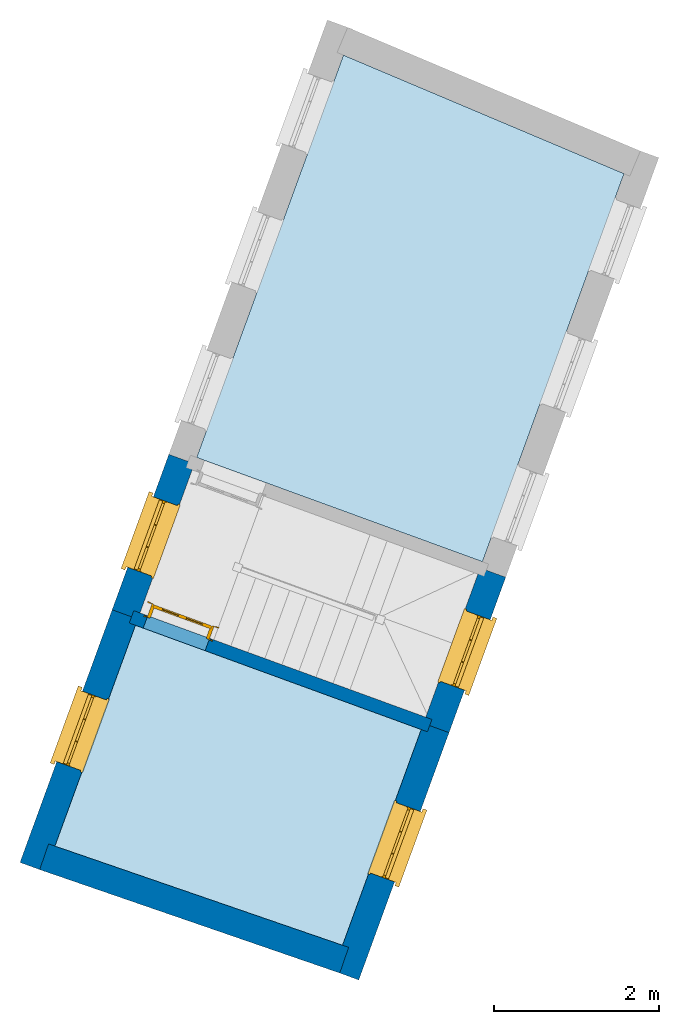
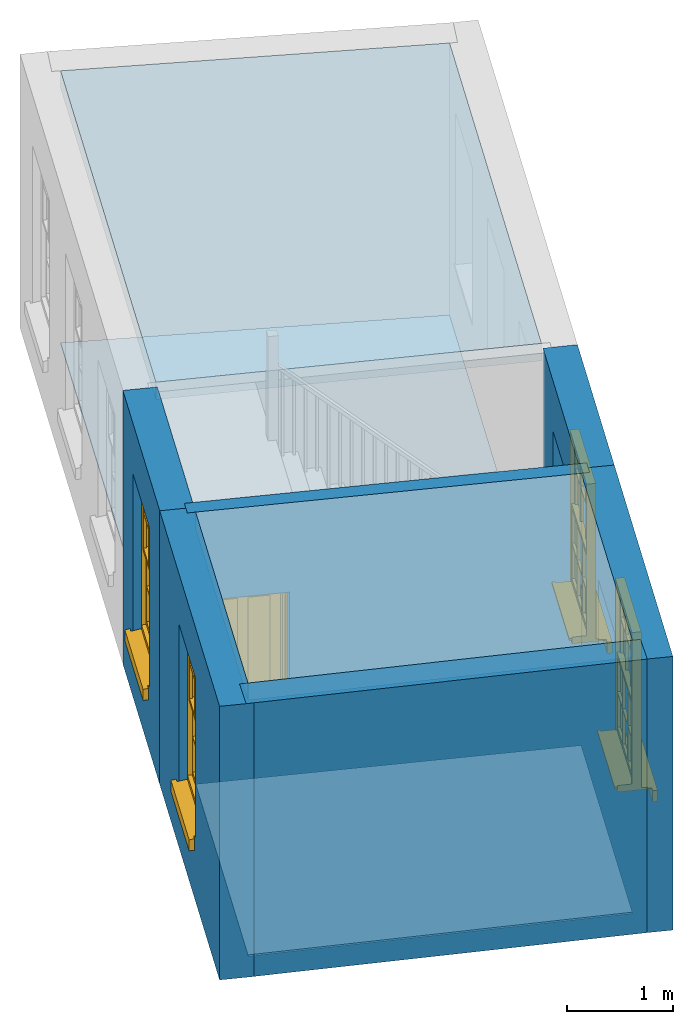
# One storey, part 1 of 2: 6 walls, 4 slabs, 4 windows, 1 door, 5 openings.
"""IFC4 building model written with IfcOpenShell, lengths in metres."""

from ifc_helpers import new_model, si_unit, frame, origin, origin_with_axes, place, context, subcontext, project, spatial, polyline, outline, extrude, faceted_brep, source, transform, mapped, material, layer, layer_set, layer_usage, type_object, type_shapes, element, fill, save


model = new_model("IFC4")

# Units and contexts
model_context = context("Model", 3, world=origin_with_axes())
body_context = subcontext(model_context, "Body", "Model", "MODEL_VIEW")
ifc_project = project(units=[si_unit("PLANEANGLEUNIT", "RADIAN"), si_unit("MASSUNIT", "GRAM", prefix="KILO"), si_unit("FORCEUNIT", "NEWTON", prefix="KILO"), si_unit("LENGTHUNIT", "METRE"), si_unit("AREAUNIT", "SQUARE_METRE"), si_unit("VOLUMEUNIT", "CUBIC_METRE")], contexts=[model_context, model_context])

# Sites, building, storey
site_1_placement = place(None, origin_with_axes())
site_1 = spatial("IfcSite", under=ifc_project, at=site_1_placement, Name="Tamar")
site_2_placement = place(site_1_placement, origin_with_axes())
site_2 = spatial("IfcSite", under=site_1, at=site_2_placement, Name="Site plot-14", CompositionType="ELEMENT")
building_placement = place(None, origin_with_axes())
building = spatial("IfcBuilding", under=site_2, at=building_placement, Name="Building plot-14", CompositionType="ELEMENT")
storey_placement = place(None, frame((0.0, 0.0, 30.4), z_axis=(0.0, 0.0, 1.0), x_axis=(1.0, 0.0, 0.0)))
storey = spatial("IfcBuildingStorey", under=building, at=storey_placement, Name="plot-14 1", CompositionType="ELEMENT", Elevation=30.4)

# Slabs
slab_1_placement = place(storey_placement, frame((253.832374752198, 310.083346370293, 2.95)))
element("IfcSlab", 1, at=slab_1_placement, inside=storey, Name="My Slab", ObjectType="Slab", PredefinedType="FLOOR", context=body_context, shape_type="SweptSolid", body=[
    extrude(outline(polyline([(0.0, 0.0), (1.71847959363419, 4.710337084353), (-1.68682426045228, 6.1486217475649), (-3.46838613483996, 1.26537669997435), (0.0, 0.0)])), origin_with_axes(), (0.0, 0.0, 1.0), 0.2),
])
slab_2_placement = place(storey_placement, frame((253.832374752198, 310.083346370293, 0.0)))
element("IfcSlab", 2, at=slab_2_placement, inside=storey, Name="My Slab", ObjectType="Slab", PredefinedType="FLOOR", context=body_context, shape_type="SweptSolid", body=[
    extrude(outline(polyline([(0.0, 0.0), (1.71847959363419, 4.710337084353), (-1.68682426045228, 6.1486217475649), (-3.46838613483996, 1.26537669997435), (0.0, 0.0)])), origin_with_axes(), (0.0, 0.0, 1.0), 0.02),
])
slab_3_placement = place(storey_placement, frame((253.089319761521, 308.046639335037, 2.95)))
element("IfcSlab", 3, at=slab_3_placement, inside=storey, Name="My Slab", ObjectType="Slab", PredefinedType="FLOOR", context=body_context, shape_type="SweptSolid", body=[
    extrude(outline(polyline([(0.0, 0.0), (-3.46838613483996, 1.26537669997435), (-4.44625763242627, -1.4149602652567), (-0.955227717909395, -2.61827056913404), (0.0, 0.0)])), origin_with_axes(), (0.0, 0.0, 1.0), 0.2),
])
slab_4_placement = place(storey_placement, frame((253.089319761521, 308.046639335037, 0.0)))
element("IfcSlab", 4, at=slab_4_placement, inside=storey, Name="My Slab", ObjectType="Slab", PredefinedType="FLOOR", context=body_context, shape_type="SweptSolid", body=[
    extrude(outline(polyline([(0.0, 0.0), (-3.46838613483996, 1.26537669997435), (-4.44625763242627, -1.4149602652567), (-0.955227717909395, -2.61827056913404), (0.0, 0.0)])), origin_with_axes(), (0.0, 0.0, 1.0), 0.02),
])

# Wall, opening, window
ifc_material_1 = material(Name="Masonry")
ifc_layer_1 = layer(ifc_material_1, 0.33, ventilated=False)
ifc_layer_set_1 = layer_set([ifc_layer_1], Name="exterior_0.08_0.25")
ifc_layer_usage_1 = layer_usage(ifc_layer_set_1, "AXIS2", "POSITIVE", -0.25)
wall_type_1 = type_object("IfcWallType", Name="exterior_0.08_0.25", PredefinedType="SOLIDWALL", material=ifc_layer_set_1)
wall_1_placement = place(storey_placement, frame((250.26141527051, 311.300987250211, 0.0), z_axis=(0.0, 0.0, 1.0), x_axis=(-0.342734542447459, -0.93943229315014, 0.0)))
wall_1 = element("IfcWall", 5, at=wall_1_placement, inside=storey, type_object=wall_type_1, material=ifc_layer_usage_1, Name="exterior", context=body_context, shape_type="SweptSolid", body=[
    extrude(outline(polyline([(1.45514303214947e-14, 0.0800000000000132), (-4.8696732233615e-15, -0.250000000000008), (2.00801897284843, -0.250000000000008), (2.00801897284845, 0.0800000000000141), (1.45514303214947e-14, 0.0800000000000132)])), origin_with_axes(), (0.0, 0.0, 1.0), 3.15),
])
opening_1_placement = place(wall_1_placement, frame((0.549009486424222, 0.0, 0.75)))
opening_1 = element("IfcOpeningElement", 6, at=opening_1_placement, cuts=wall_1, Name="My Opening", ObjectType="Opening", context=body_context, shape_type="SweptSolid", body=[
    extrude(outline(polyline([(0.0, -0.270000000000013), (0.90999999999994, -0.270000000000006), (0.909999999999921, 1.09999999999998), (-1.90958360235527e-14, 1.09999999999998), (0.0, -0.270000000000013)])), origin_with_axes(), (0.0, 0.0, 1.0), 1.82),
])
window_type = type_object("IfcWindowType", Name="sash_big", PartitioningType="DOUBLE_PANEL_HORIZONTAL", PredefinedType="NOTDEFINED")
shared_shape_1 = source(origin(), body_context, "Body", "Brep", [
    faceted_brep([(0.033125, 0.145, 0.975209), (0.01, 0.145, 0.975209), (0.033125, 0.145, 1.376042), (0.876875, 0.145, 0.975209), (0.876875, 0.145, 1.376042), (0.9, 0.145, 0.975209), (0.876875, 0.145, 1.386042), (0.876875, 0.145, 1.786875), (0.9, 0.145, 1.81), (0.033125, 0.145, 1.786875), (0.033125, 0.145, 1.386042), (0.01, 0.145, 1.81), (0.876875, 0.115, 1.376042), (0.876875, 0.115, 0.975209), (0.9, 0.115, 0.937083), (0.033125, 0.115, 1.786875), (0.01, 0.115, 1.81), (0.033125, 0.115, 1.386042), (0.01, 0.115, 0.937083), (0.033125, 0.115, 0.975209), (0.033125, 0.115, 1.376042), (0.876875, 0.115, 1.786875), (0.876875, 0.115, 1.386042), (0.9, 0.115, 1.81), (0.033125, 0.145, 0.937083), (0.01, 0.145, 0.937083), (0.033125, 0.145, 0.53625), (0.876875, 0.145, 0.937083), (0.876875, 0.145, 0.53625), (0.9, 0.145, 0.937083), (0.876875, 0.145, 0.52625), (0.876875, 0.145, 0.125417), (0.9, 0.145, 0.077167), (0.033125, 0.145, 0.125417), (0.033125, 0.145, 0.52625), (0.01, 0.145, 0.077167), (-0.0425, 0.0, 0.01), (-0.0425, -0.05, 0.001667), (0.0, 0.0, 0.01), (0.9525, 0.0, 0.01), (0.91, 0.0, 0.01), (0.9525, -0.05, 0.001667), (-0.02, 0.33, 0.077167), (0.0, 0.33, 0.077167), (-0.02, 0.36, 0.077167), (0.0, 0.19, 0.077167), (0.01, 0.19, 0.077167), (0.91, 0.19, 0.077167), (0.91, 0.33, 0.077167), (0.9, 0.19, 0.077167), (0.93, 0.33, 0.077167), (0.93, 0.36, 0.077167), (0.01, 0.175, 0.975209), (0.9, 0.175, 0.975209), (0.876875, 0.175, 0.125417), (0.876875, 0.175, 0.52625), (0.9, 0.175, 0.077167), (0.876875, 0.175, 0.53625), (0.876875, 0.175, 0.937083), (0.033125, 0.175, 0.125417), (0.01, 0.175, 0.077167), (0.033125, 0.175, 0.52625), (0.033125, 0.175, 0.937083), (0.033125, 0.175, 0.53625), (-0.02, 0.33, 0.052167), (-0.02, 0.36, 0.052167), (0.93, 0.36, 0.052167), (0.93, 0.33, 0.052167), (0.91, 0.33, 0.052167), (0.0, 0.33, 0.052167), (0.91, 0.1, 0.026667), (0.0, 0.1, 0.026667), (-0.0425, -0.05, -0.123333), (0.9525, -0.05, -0.123333), (-0.0425, 0.0, -0.123333), (0.9525, 0.0, -0.123333), (0.01, 0.19, 1.81), (0.9, 0.19, 1.81), (0.0, 0.19, 1.82), (0.91, 0.19, 1.82), (0.01, 0.1, 0.077167), (0.9, 0.1, 0.077167), (0.592292, 0.145, 0.125417), (0.592292, 0.175, 0.125417), (0.317708, 0.175, 0.125417), (0.317708, 0.145, 0.125417), (0.592292, 0.145, 0.53625), (0.317708, 0.145, 0.53625), (0.317708, 0.145, 0.52625), (0.592292, 0.145, 0.52625), (0.592292, 0.175, 0.53625), (0.317708, 0.175, 0.53625), (0.592292, 0.115, 1.386042), (0.592292, 0.145, 1.386042), (0.317708, 0.145, 1.386042), (0.317708, 0.115, 1.386042), (0.317708, 0.115, 1.376042), (0.592292, 0.115, 1.376042), (0.317708, 0.145, 1.376042), (0.592292, 0.145, 1.376042), (0.602292, 0.115, 1.376042), (0.592292, 0.115, 0.975209), (0.602292, 0.115, 0.975209), (0.602292, 0.145, 0.975209), (0.592292, 0.145, 0.975209), (0.602292, 0.145, 1.376042), (0.602292, 0.175, 0.53625), (0.602292, 0.145, 0.53625), (0.317708, 0.175, 0.52625), (0.307708, 0.175, 0.125417), (0.307708, 0.175, 0.52625), (0.602292, 0.175, 0.52625), (0.602292, 0.175, 0.125417), (0.592292, 0.175, 0.52625), (0.307708, 0.175, 0.53625), (0.317708, 0.175, 0.937083), (0.307708, 0.175, 0.937083), (0.602292, 0.175, 0.937083), (0.592292, 0.175, 0.937083), (0.307708, 0.145, 0.52625), (0.307708, 0.145, 0.125417), (0.307708, 0.145, 0.53625), (0.307708, 0.145, 0.937083), (0.592292, 0.145, 0.937083), (0.317708, 0.145, 0.937083), (0.602292, 0.145, 0.937083), (0.602292, 0.145, 0.52625), (0.602292, 0.145, 0.125417), (0.307708, 0.115, 1.386042), (0.307708, 0.115, 1.376042), (0.307708, 0.115, 0.975209), (0.317708, 0.115, 0.975209), (0.317708, 0.115, 1.786875), (0.307708, 0.115, 1.786875), (0.602292, 0.115, 1.786875), (0.592292, 0.115, 1.786875), (0.602292, 0.115, 1.386042), (0.602292, 0.145, 1.386042), (0.307708, 0.145, 1.386042), (0.307708, 0.145, 1.786875), (0.317708, 0.145, 1.786875), (0.592292, 0.145, 1.786875), (0.602292, 0.145, 1.786875), (0.307708, 0.145, 1.376042), (0.317708, 0.145, 0.975209), (0.307708, 0.145, 0.975209), (0.91, 0.1, 1.82), (0.9, 0.1, 1.81), (0.01, 0.1, 1.81), (0.0, 0.1, 1.82), (0.91, 0.0, 0.0), (0.0, 0.0, 0.0), (0.91, 0.33, 0.0), (0.0, 0.33, 0.0)], [[[0, 1, 2]], [[3, 4, 5]], [[6, 7, 8]], [[9, 10, 11]], [[12, 13, 14]], [[15, 16, 17]], [[18, 19, 20]], [[21, 22, 23]], [[24, 25, 26]], [[27, 28, 29]], [[30, 31, 32]], [[33, 34, 35]], [[14, 27, 29]], [[25, 24, 18]], [[36, 37, 38]], [[39, 40, 41]], [[42, 43, 44]], [[45, 46, 43]], [[47, 48, 49]], [[50, 51, 48]], [[1, 0, 52]], [[5, 53, 3]], [[54, 55, 56]], [[57, 58, 53]], [[59, 60, 61]], [[62, 63, 52]], [[48, 43, 46, 49]], [[51, 44, 43, 48]], [[64, 42, 44, 65]], [[65, 44, 51, 66]], [[66, 51, 50, 67]], [[65, 66, 68, 69]], [[60, 56, 49, 46]], [[70, 71, 38, 40]], [[37, 41, 40, 38]], [[37, 72, 73, 41]], [[74, 75, 73, 72]], [[8, 11, 76, 77]], [[76, 78, 79, 77]], [[32, 35, 80, 81]], [[81, 80, 71, 70]], [[82, 83, 84, 85]], [[86, 87, 88, 89]], [[86, 90, 91, 87]], [[92, 93, 94, 95]], [[92, 95, 96, 97]], [[96, 98, 99, 97]], [[100, 97, 101, 102]], [[103, 104, 99, 105]], [[97, 99, 104, 101]], [[102, 103, 105, 100]], [[28, 57, 106, 107]], [[108, 84, 109, 110]], [[111, 112, 83, 113]], [[114, 110, 61, 63]], [[90, 113, 108, 91]], [[115, 91, 114, 116]], [[117, 106, 90, 118]], [[111, 106, 57, 55]], [[119, 110, 109, 120]], [[34, 61, 110, 119]], [[89, 113, 83, 82]], [[88, 108, 113, 89]], [[85, 84, 108, 88]], [[121, 114, 63, 26]], [[122, 116, 114, 121]], [[123, 118, 90, 86]], [[87, 91, 115, 124]], [[107, 106, 117, 125]], [[126, 111, 55, 30]], [[127, 112, 111, 126]], [[126, 30, 28, 107]], [[88, 119, 120, 85]], [[126, 89, 82, 127]], [[125, 123, 86, 107]], [[121, 26, 34, 119]], [[124, 122, 121, 87]], [[128, 17, 20, 129]], [[96, 129, 130, 131]], [[132, 133, 128, 95]], [[134, 135, 92, 136]], [[100, 12, 22, 136]], [[137, 6, 4, 105]], [[94, 138, 139, 140]], [[137, 93, 141, 142]], [[99, 98, 94, 93]], [[143, 2, 10, 138]], [[144, 145, 143, 98]], [[129, 143, 145, 130]], [[20, 2, 143, 129]], [[131, 144, 98, 96]], [[128, 138, 10, 17]], [[133, 139, 138, 128]], [[135, 141, 93, 92]], [[95, 94, 140, 132]], [[22, 6, 137, 136]], [[136, 137, 142, 134]], [[100, 105, 4, 12]], [[107, 86, 89, 126]], [[106, 111, 113, 90]], [[91, 108, 110, 114]], [[87, 121, 119, 88]], [[97, 100, 136, 92]], [[129, 96, 95, 128]], [[98, 143, 138, 94]], [[105, 99, 93, 137]], [[131, 101, 104, 144]], [[124, 115, 118, 123]], [[132, 140, 141, 135]], [[120, 109, 59, 33]], [[15, 9, 139, 133]], [[134, 142, 7, 21]], [[31, 54, 112, 127]], [[36, 74, 72, 37]], [[39, 41, 73, 75]], [[18, 14, 101, 131]], [[23, 16, 132, 135]], [[83, 56, 60, 84]], [[52, 53, 118, 115]], [[53, 52, 144, 104]], [[11, 8, 141, 140]], [[14, 18, 124, 123]], [[2, 1, 11, 10]], [[8, 5, 4, 6]], [[57, 53, 56, 55]], [[60, 52, 63, 61]], [[26, 25, 35, 34]], [[32, 29, 28, 30]], [[14, 23, 22, 12]], [[18, 20, 17, 16]], [[19, 0, 2, 20]], [[17, 10, 9, 15]], [[12, 4, 3, 13]], [[21, 7, 6, 22]], [[27, 58, 57, 28]], [[30, 55, 54, 31]], [[33, 59, 61, 34]], [[26, 63, 62, 24]], [[5, 8, 77, 53]], [[76, 11, 1, 52]], [[46, 45, 78, 76]], [[49, 77, 79, 47]], [[70, 146, 147, 81]], [[71, 80, 148, 149]], [[19, 130, 145, 0]], [[102, 13, 3, 103]], [[116, 122, 24, 62]], [[29, 32, 81, 14]], [[80, 35, 25, 18]], [[60, 46, 76, 52]], [[77, 49, 56, 53]], [[23, 14, 81, 147]], [[16, 148, 80, 18]], [[35, 85, 120]], [[120, 33, 35]], [[127, 82, 32]], [[32, 31, 127]], [[32, 82, 85, 35]], [[102, 101, 14]], [[14, 13, 102]], [[18, 131, 130]], [[130, 19, 18]], [[134, 21, 23]], [[23, 135, 134]], [[16, 15, 133]], [[133, 132, 16]], [[11, 140, 139]], [[139, 9, 11]], [[142, 141, 8]], [[8, 7, 142]], [[23, 147, 148, 16]], [[146, 149, 148, 147]], [[52, 115, 116]], [[116, 62, 52]], [[118, 53, 117]], [[58, 117, 53]], [[27, 125, 117, 58]], [[56, 83, 112]], [[112, 54, 56]], [[109, 84, 60]], [[60, 59, 109]], [[125, 27, 14]], [[14, 123, 125]], [[122, 124, 18]], [[18, 24, 122]], [[145, 144, 52]], [[52, 0, 145]], [[103, 3, 53]], [[53, 104, 103]], [[79, 78, 149, 146]], [[78, 45, 71, 149]], [[146, 70, 47, 79]], [[150, 75, 74, 151]], [[68, 66, 67]], [[48, 68, 67, 50]], [[69, 64, 65]], [[42, 64, 69, 43]], [[69, 68, 152, 153]], [[70, 68, 48, 47]], [[150, 152, 68, 70]], [[43, 69, 71, 45]], [[69, 153, 151, 71]], [[152, 150, 151, 153]], [[38, 151, 74, 36]], [[71, 151, 38]], [[39, 75, 150, 40]], [[40, 150, 70]]]),
])
type_shapes(window_type, [shared_shape_1])
window_1_placement = place(storey_placement, frame((249.819604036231, 310.877768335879, 0.75), z_axis=(0.0, 0.0, 1.0), x_axis=(-0.311888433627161, -0.854883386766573, 0.0)))
window_1 = element("IfcWindow", 7, at=window_1_placement, inside=storey, type_object=window_type, Name="circulation outside window", OverallHeight=1.82, OverallWidth=0.91, context=body_context, shape_type="MappedRepresentation", body=[
    mapped(shared_shape_1, transform((0.0, 0.0, 0.0), scale=1.0)),
])
fill(opening_1, window_1)

wall_2_placement = place(storey_placement, frame((249.573197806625, 309.414589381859, 0.0), z_axis=(0.0, 0.0, 1.0), x_axis=(-0.342734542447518, -0.939432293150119, 0.0)))
wall_2 = element("IfcWall", 8, at=wall_2_placement, inside=storey, type_object=wall_type_1, material=ifc_layer_usage_1, Name="exterior", context=body_context, shape_type="SweptSolid", body=[
    extrude(outline(polyline([(9.57763117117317e-15, 0.0800000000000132), (1.06734491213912e-14, -0.250000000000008), (3.26458984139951, -0.250000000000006), (3.26458984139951, 0.0800000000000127), (9.57763117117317e-15, 0.0800000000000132)])), origin_with_axes(), (0.0, 0.0, 1.0), 3.15),
])
opening_2_placement = place(wall_2_placement, frame((1.05229492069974, 0.0, 0.75)))
opening_2 = element("IfcOpeningElement", 9, at=opening_2_placement, cuts=wall_2, Name="My Opening", ObjectType="Opening", context=body_context, shape_type="SweptSolid", body=[
    extrude(outline(polyline([(0.0, -0.270000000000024), (0.910000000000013, -0.269999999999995), (0.910000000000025, 1.10000000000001), (1.22124532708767e-14, 1.09999999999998), (0.0, -0.270000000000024)])), origin_with_axes(), (0.0, 0.0, 1.0), 1.82),
])
window_2_placement = place(storey_placement, frame((248.958893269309, 308.518567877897, 0.75), z_axis=(0.0, 0.0, 1.0), x_axis=(-0.311888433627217, -0.85488338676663, 0.0)))
window_2 = element("IfcWindow", 10, at=window_2_placement, inside=storey, type_object=window_type, Name="toilet outside window", OverallHeight=1.82, OverallWidth=0.91, context=body_context, shape_type="MappedRepresentation", body=[
    mapped(shared_shape_1, transform((0.0, 0.0, 0.0), scale=1.0)),
])
fill(opening_2, window_2)

wall_3_placement = place(storey_placement, frame((252.182314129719, 305.32712826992, 0.0), z_axis=(0.0, 0.0, 1.0), x_axis=(0.342734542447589, 0.939432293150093, 0.0)))
wall_3 = element("IfcWall", 11, at=wall_3_placement, inside=storey, type_object=wall_type_1, material=ifc_layer_usage_1, Name="exterior", context=body_context, shape_type="SweptSolid", body=[
    extrude(outline(polyline([(-0.249999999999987, 0.08000000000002), (-0.249999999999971, -0.249999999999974), (2.94565867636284, -0.249999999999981), (2.94565867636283, 0.0800000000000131), (-0.249999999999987, 0.08000000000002)])), origin_with_axes(), (0.0, 0.0, 1.0), 3.15),
])
opening_3_placement = place(wall_3_placement, frame((1.01782933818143, 0.0, 0.75)))
opening_3 = element("IfcOpeningElement", 12, at=opening_3_placement, cuts=wall_3, Name="My Opening", ObjectType="Opening", context=body_context, shape_type="SweptSolid", body=[
    extrude(outline(polyline([(0.0, -0.270000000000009), (0.909999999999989, -0.270000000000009), (0.910000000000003, 1.10000000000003), (1.46549439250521e-14, 1.10000000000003), (0.0, -0.270000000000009)])), origin_with_axes(), (0.0, 0.0, 1.0), 1.82),
])
window_3_placement = place(storey_placement, frame((252.784806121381, 306.190771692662, 0.75), z_axis=(0.0, 0.0, 1.0), x_axis=(0.311888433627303, 0.854883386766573, 0.0)))
window_3 = element("IfcWindow", 13, at=window_3_placement, inside=storey, type_object=window_type, Name="toilet outside window", OverallHeight=1.82, OverallWidth=0.91, context=body_context, shape_type="MappedRepresentation", body=[
    mapped(shared_shape_1, transform((0.0, 0.0, 0.0), scale=1.0)),
])
fill(opening_3, window_3)

wall_4_placement = place(storey_placement, frame((253.191893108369, 308.094375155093, 0.0), z_axis=(0.0, 0.0, 1.0), x_axis=(0.342734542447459, 0.93943229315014, 0.0)))
wall_4 = element("IfcWall", 14, at=wall_4_placement, inside=storey, type_object=wall_type_1, material=ifc_layer_usage_1, Name="exterior", context=body_context, shape_type="SweptSolid", body=[
    extrude(outline(polyline([(1.45710246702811e-14, 0.0800000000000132), (-1.46396358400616e-14, -0.249999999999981), (2.00801897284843, -0.250000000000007), (2.00801897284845, 0.0800000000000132), (1.45710246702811e-14, 0.0800000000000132)])), origin_with_axes(), (0.0, 0.0, 1.0), 3.15),
])
opening_4_placement = place(wall_4_placement, frame((0.549009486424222, 0.0, 0.75)))
opening_4 = element("IfcOpeningElement", 15, at=opening_4_placement, cuts=wall_4, Name="My Opening", ObjectType="Opening", context=body_context, shape_type="SweptSolid", body=[
    extrude(outline(polyline([(0.0, -0.270000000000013), (0.90999999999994, -0.270000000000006), (0.909999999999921, 1.09999999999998), (-1.89848137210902e-14, 1.09999999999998), (0.0, -0.270000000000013)])), origin_with_axes(), (0.0, 0.0, 1.0), 1.82),
])
window_4_placement = place(storey_placement, frame((253.633704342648, 308.517594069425, 0.75), z_axis=(0.0, 0.0, 1.0), x_axis=(0.311888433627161, 0.854883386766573, 0.0)))
window_4 = element("IfcWindow", 16, at=window_4_placement, inside=storey, type_object=window_type, Name="circulation outside window", OverallHeight=1.82, OverallWidth=0.91, context=body_context, shape_type="MappedRepresentation", body=[
    mapped(shared_shape_1, transform((0.0, 0.0, 0.0), scale=1.0)),
])
fill(opening_4, window_4)

# Wall
ifc_material_2 = material(Name="Masonry")
ifc_layer_2 = layer(ifc_material_2, 0.33, ventilated=False)
ifc_layer_set_2 = layer_set([ifc_layer_2], Name="party_0.08_0.25")
ifc_layer_usage_2 = layer_usage(ifc_layer_set_2, "AXIS2", "POSITIVE", -0.25)
wall_type_2 = type_object("IfcWallType", Name="party_0.08_0.25", PredefinedType="SOLIDWALL", material=ifc_layer_set_2)
wall_5_placement = place(storey_placement, frame((248.539993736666, 306.582586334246, 0.0), z_axis=(0.0, 0.0, 1.0), x_axis=(0.945414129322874, -0.325871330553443, 0.0)))
element("IfcWall", 17, at=wall_5_placement, inside=storey, type_object=wall_type_2, material=ifc_layer_usage_2, Name="party", context=body_context, shape_type="SweptSolid", body=[
    extrude(outline(polyline([(7.25243449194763e-15, 0.0799999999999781), (-3.82068253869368e-15, -0.250000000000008), (3.85261895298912, -0.250000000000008), (3.85261895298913, 0.0799999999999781), (7.25243449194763e-15, 0.0799999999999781)])), origin_with_axes(), (0.0, 0.0, 1.0), 3.15),
])

# Wall, opening, door
ifc_material_3 = material(Name="Masonry")
ifc_layer_3 = layer(ifc_material_3, 0.16, ventilated=False)
ifc_layer_set_3 = layer_set([ifc_layer_3], Name="interior_0.08_0.08")
ifc_layer_usage_3 = layer_usage(ifc_layer_set_3, "AXIS2", "POSITIVE", -0.08)
wall_type_3 = type_object("IfcWallType", Name="interior_0.08_0.08", PredefinedType="SOLIDWALL", material=ifc_layer_set_3)
wall_6_placement = place(storey_placement, frame((249.573197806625, 309.414589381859, 0.0), z_axis=(0.0, 0.0, 1.0), x_axis=(0.939432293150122, -0.34273454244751, 0.0)))
wall_6 = element("IfcWall", 18, at=wall_6_placement, inside=storey, type_object=wall_type_3, material=ifc_layer_usage_3, Name="interior", context=body_context, shape_type="SweptSolid", body=[
    extrude(outline(polyline([(1.9971149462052e-14, 0.0799999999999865), (-1.99809466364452e-14, -0.0799999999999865), (3.85200224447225, -0.0799999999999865), (3.85200224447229, 0.0799999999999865), (1.9971149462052e-14, 0.0799999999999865)])), origin_with_axes(), (0.0, 0.0, 1.0), 3.15),
])
opening_5_placement = place(wall_6_placement, frame((0.180000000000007, 0.0, 0.0199999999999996)))
opening_5 = element("IfcOpeningElement", 19, at=opening_5_placement, cuts=wall_6, Name="My Opening", ObjectType="Opening", context=body_context, shape_type="SweptSolid", body=[
    extrude(outline(polyline([(0.0, -0.0999999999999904), (0.799999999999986, -0.100000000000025), (0.800000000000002, 1.09999999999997), (1.55708779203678e-14, 1.10000000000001), (0.0, -0.0999999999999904)])), origin_with_axes(), (0.0, 0.0, 1.0), 2.1),
])
door_type = type_object("IfcDoorType", Name="door_inside", OperationType="SINGLE_SWING_LEFT", PredefinedType="NOTDEFINED")
shared_shape_2 = source(origin(), body_context, "Body", "Brep", [
    faceted_brep([(0.773, 0.33, 1.895), (0.66, 0.33, 1.895), (0.66, 0.33, 2.073), (0.773, 0.33, 2.073), (0.773, 0.33, 0.82), (0.66, 0.33, 0.82), (0.45, 0.33, 1.895), (0.45, 0.33, 2.073), (0.773, 0.33, 0.62), (0.66, 0.33, 0.62), (0.66, 0.315, 0.82), (0.66, 0.315, 1.895), (0.45, 0.315, 1.895), (0.35, 0.33, 1.895), (0.35, 0.33, 2.073), (0.773, 0.33, 0.225), (0.66, 0.33, 0.225), (0.45, 0.33, 0.62), (0.45, 0.33, 0.82), (0.45, 0.315, 0.82), (0.35, 0.33, 0.82), (0.14, 0.33, 2.073), (0.14, 0.33, 1.895), (0.773, 0.33, 0.0), (0.66, 0.33, 0.0), (0.66, 0.315, 0.225), (0.66, 0.315, 0.62), (0.45, 0.315, 0.62), (0.35, 0.33, 0.62), (0.35, 0.315, 0.82), (0.35, 0.315, 1.895), (0.14, 0.315, 1.895), (0.027, 0.33, 2.073), (0.027, 0.33, 1.895), (0.773, 0.292, 0.0), (0.66, 0.292, 0.0), (0.45, 0.33, 0.0), (0.45, 0.33, 0.225), (0.45, 0.315, 0.225), (0.35, 0.33, 0.225), (0.14, 0.33, 0.82), (0.14, 0.33, 0.62), (0.14, 0.315, 0.82), (0.027, 0.33, 0.82), (0.773, 0.292, 0.225), (0.66, 0.292, 0.225), (0.45, 0.292, 0.0), (0.35, 0.33, 0.0), (0.35, 0.315, 0.225), (0.35, 0.315, 0.62), (0.14, 0.315, 0.62), (0.027, 0.33, 0.62), (0.773, 0.292, 0.62), (0.66, 0.292, 0.62), (0.45, 0.292, 0.225), (0.35, 0.292, 0.0), (0.14, 0.33, 0.225), (0.14, 0.33, 0.0), (0.14, 0.315, 0.225), (0.027, 0.33, 0.225), (0.773, 0.292, 0.82), (0.66, 0.292, 0.82), (0.66, 0.307, 0.62), (0.66, 0.307, 0.225), (0.45, 0.307, 0.225), (0.35, 0.292, 0.225), (0.14, 0.292, 0.0), (0.027, 0.33, 0.0), (0.773, 0.292, 1.895), (0.66, 0.292, 1.895), (0.45, 0.292, 0.62), (0.45, 0.292, 0.82), (0.45, 0.307, 0.62), (0.35, 0.292, 0.62), (0.14, 0.292, 0.225), (0.027, 0.292, 0.0), (0.773, 0.292, 2.073), (0.66, 0.292, 2.073), (0.66, 0.307, 1.895), (0.66, 0.307, 0.82), (0.45, 0.307, 0.82), (0.35, 0.292, 0.82), (0.35, 0.307, 0.62), (0.35, 0.307, 0.225), (0.14, 0.307, 0.225), (0.027, 0.292, 0.225), (0.45, 0.292, 1.895), (0.45, 0.292, 2.073), (0.45, 0.307, 1.895), (0.35, 0.292, 1.895), (0.14, 0.292, 0.82), (0.14, 0.292, 0.62), (0.14, 0.307, 0.62), (0.027, 0.292, 0.62), (0.35, 0.292, 2.073), (0.35, 0.307, 1.895), (0.35, 0.307, 0.82), (0.14, 0.307, 0.82), (0.027, 0.292, 0.82), (0.14, 0.292, 2.073), (0.14, 0.292, 1.895), (0.14, 0.307, 1.895), (0.027, 0.292, 1.895), (0.027, 0.292, 2.073), (0.02, 0.335, 0.0), (0.005, 0.34, 0.0), (0.005, 0.34, 2.095), (0.02, 0.335, 2.08), (0.02, 0.33, 0.0), (0.0, 0.335, 0.0), (0.0, 0.335, 2.1), (0.795, 0.34, 2.095), (0.78, 0.335, 2.08), (0.02, 0.33, 2.08), (0.0, 0.33, 0.0), (-0.032, 0.345, 0.0), (-0.032, 0.345, 2.132), (0.8, 0.335, 2.1), (0.795, 0.34, 0.0), (0.78, 0.335, 0.0), (0.78, 0.33, 2.08), (0.04, 0.29, 0.0), (0.025, 0.29, 0.0), (0.025, 0.29, 2.075), (0.04, 0.29, 2.06), (-0.04, 0.34, 0.0), (-0.04, 0.34, 2.14), (0.832, 0.345, 2.132), (0.8, 0.335, 0.0), (0.78, 0.33, 0.0), (0.8, 0.33, 0.0), (0.86, 0.33, 0.0), (0.86, 0.33, 2.16), (0.8, 0.33, 2.1), (-0.06, 0.33, 2.16), (0.0, 0.33, 2.1), (-0.06, 0.33, 0.0), (-0.04, 0.345, 0.0), (-0.04, 0.345, 2.14), (0.84, 0.34, 2.14), (0.832, 0.345, 0.0), (0.84, 0.34, 0.0), (0.86, 0.345, 0.0), (0.86, 0.345, 2.16), (-0.06, 0.345, 2.16), (-0.06, 0.345, 0.0), (0.84, 0.345, 0.0), (0.84, 0.345, 2.14), (-0.025, 0.155, 0.0), (-0.025, 0.16, 0.0), (-0.025, 0.16, 2.125), (-0.025, 0.155, 2.125), (-0.017, 0.155, 0.0), (-0.017, 0.155, 2.117), (0.825, 0.16, 2.125), (0.825, 0.155, 2.125), (0.825, 0.155, 0.0), (0.845, 0.155, 0.0), (-0.045, 0.155, 2.145), (-0.045, 0.155, 0.0), (0.845, 0.155, 2.145), (0.015, 0.165, 0.0), (0.015, 0.165, 2.085), (0.817, 0.155, 2.117), (0.825, 0.16, 0.0), (0.845, 0.17, 0.0), (0.845, 0.17, 2.145), (-0.045, 0.17, 2.145), (-0.045, 0.17, 0.0), (0.02, 0.16, 0.0), (0.02, 0.16, 2.08), (0.785, 0.165, 2.085), (0.817, 0.155, 0.0), (0.8, 0.17, 0.0), (0.8, 0.17, 2.1), (0.0, 0.17, 2.1), (0.0, 0.17, 0.0), (0.035, 0.165, 0.0), (0.035, 0.165, 2.065), (0.78, 0.16, 2.08), (0.785, 0.165, 0.0), (0.775, 0.29, 2.075), (0.76, 0.29, 2.06), (0.035, 0.17, 2.065), (0.035, 0.17, 0.0), (0.765, 0.165, 2.065), (0.78, 0.16, 0.0), (0.765, 0.17, 0.0), (0.765, 0.17, 2.065), (0.765, 0.165, 0.0), (0.04, 0.17, 2.06), (0.04, 0.17, 0.0), (0.76, 0.17, 2.06), (0.76, 0.17, 0.0), (0.76, 0.29, 0.0), (0.775, 0.29, 0.0), (0.025, 0.33, 0.0), (0.025, 0.33, 2.075), (0.775, 0.33, 0.0), (0.775, 0.33, 2.075)], [[[0, 1, 2, 3]], [[1, 0, 4, 5]], [[1, 6, 7, 2]], [[8, 9, 5, 4]], [[1, 5, 10, 11]], [[6, 1, 11, 12]], [[6, 13, 14, 7]], [[15, 16, 9, 8]], [[9, 17, 18, 5]], [[5, 18, 19, 10]], [[10, 19, 12, 11]], [[18, 6, 12, 19]], [[18, 20, 13, 6]], [[21, 14, 13, 22]], [[23, 24, 16, 15]], [[9, 16, 25, 26]], [[17, 9, 26, 27]], [[17, 28, 20, 18]], [[13, 20, 29, 30]], [[22, 13, 30, 31]], [[32, 21, 22, 33]], [[34, 35, 24, 23]], [[24, 36, 37, 16]], [[16, 37, 38, 25]], [[25, 38, 27, 26]], [[37, 17, 27, 38]], [[37, 39, 28, 17]], [[40, 20, 28, 41]], [[20, 40, 42, 29]], [[31, 30, 29, 42]], [[40, 22, 31, 42]], [[33, 22, 40, 43]], [[35, 34, 44, 45]], [[35, 46, 36, 24]], [[36, 47, 39, 37]], [[28, 39, 48, 49]], [[41, 28, 49, 50]], [[43, 40, 41, 51]], [[45, 44, 52, 53]], [[46, 35, 45, 54]], [[46, 55, 47, 36]], [[56, 39, 47, 57]], [[39, 56, 58, 48]], [[50, 49, 48, 58]], [[56, 41, 50, 58]], [[51, 41, 56, 59]], [[53, 52, 60, 61]], [[45, 53, 62, 63]], [[54, 45, 63, 64]], [[55, 46, 54, 65]], [[55, 66, 57, 47]], [[59, 56, 57, 67]], [[61, 60, 68, 69]], [[70, 53, 61, 71]], [[53, 70, 72, 62]], [[72, 64, 63, 62]], [[70, 54, 64, 72]], [[65, 54, 70, 73]], [[65, 74, 66, 55]], [[67, 57, 66, 75]], [[69, 68, 76, 77]], [[61, 69, 78, 79]], [[71, 61, 79, 80]], [[73, 70, 71, 81]], [[65, 73, 82, 83]], [[74, 65, 83, 84]], [[74, 85, 75, 66]], [[86, 69, 77, 87]], [[69, 86, 88, 78]], [[88, 80, 79, 78]], [[86, 71, 80, 88]], [[81, 71, 86, 89]], [[73, 81, 90, 91]], [[73, 91, 92, 82]], [[83, 82, 92, 84]], [[91, 74, 84, 92]], [[91, 93, 85, 74]], [[89, 86, 87, 94]], [[81, 89, 95, 96]], [[90, 81, 96, 97]], [[90, 98, 93, 91]], [[94, 99, 100, 89]], [[89, 100, 101, 95]], [[101, 97, 96, 95]], [[100, 90, 97, 101]], [[100, 102, 98, 90]], [[99, 103, 102, 100]], [[32, 103, 99, 21]], [[102, 103, 32, 33]], [[98, 102, 33, 43]], [[21, 99, 94, 14]], [[94, 87, 7, 14]], [[7, 87, 77, 2]], [[76, 3, 2, 77]], [[43, 51, 93, 98]], [[51, 59, 85, 93]], [[67, 75, 85, 59]], [[34, 23, 15, 44]], [[44, 15, 8, 52]], [[52, 8, 4, 60]], [[0, 68, 60, 4]], [[0, 3, 76, 68]], [[104, 105, 106, 107]], [[104, 108, 109, 105]], [[105, 109, 110, 106]], [[107, 106, 111, 112]], [[107, 113, 108, 104]], [[114, 109, 108]], [[109, 115, 116, 110]], [[106, 110, 117, 111]], [[112, 111, 118, 119]], [[113, 107, 112, 120]], [[121, 122, 123, 124]], [[115, 109, 114, 125]], [[115, 125, 126, 116]], [[110, 116, 127, 117]], [[111, 117, 128, 118]], [[118, 128, 129, 119]], [[120, 112, 119, 129]], [[130, 129, 128]], [[130, 131, 132, 133]], [[133, 132, 134, 135]], [[135, 134, 136, 114]], [[136, 125, 114]], [[125, 137, 138, 126]], [[116, 126, 139, 127]], [[117, 127, 140, 128]], [[141, 130, 128, 140]], [[131, 130, 141]], [[131, 142, 143, 132]], [[132, 143, 144, 134]], [[134, 144, 145, 136]], [[137, 125, 136, 145]], [[143, 142, 146]], [[143, 146, 147]], [[137, 145, 144]], [[143, 147, 138]], [[138, 137, 144]], [[143, 138, 144]], [[126, 138, 147, 139]], [[127, 139, 141, 140]], [[142, 131, 141, 146]], [[139, 147, 146, 141]], [[148, 149, 150, 151]], [[149, 152, 153, 150]], [[151, 150, 154, 155]], [[155, 156, 157]], [[158, 159, 148]], [[158, 148, 151]], [[155, 157, 160]], [[158, 151, 155]], [[155, 160, 158]], [[152, 161, 162, 153]], [[150, 153, 163, 154]], [[155, 154, 164, 156]], [[156, 164, 165, 157]], [[157, 165, 166, 160]], [[160, 166, 167, 158]], [[158, 167, 168, 159]], [[161, 169, 170, 162]], [[153, 162, 171, 163]], [[154, 163, 172, 164]], [[165, 164, 173]], [[165, 173, 174, 166]], [[166, 174, 175, 167]], [[167, 175, 176, 168]], [[169, 177, 178, 170]], [[162, 170, 179, 171]], [[163, 171, 180, 172]], [[172, 180, 173, 164]], [[124, 123, 181, 182]], [[183, 178, 177, 184]], [[170, 178, 185, 179]], [[171, 179, 186, 180]], [[187, 173, 180]], [[185, 188, 187, 189]], [[188, 185, 178, 183]], [[179, 185, 189, 186]], [[189, 187, 180, 186]], [[190, 183, 184, 191]], [[192, 188, 183, 190]], [[191, 184, 122, 121]], [[124, 190, 191, 121]], [[193, 187, 188, 192]], [[182, 192, 190, 124]], [[184, 176, 122]], [[194, 195, 187, 193]], [[192, 182, 194, 193]], [[161, 176, 184]], [[114, 108, 122, 176]], [[173, 187, 195]], [[152, 149, 176, 161]], [[169, 161, 184, 177]], [[196, 122, 108]], [[176, 175, 135, 114]], [[173, 195, 129, 130]], [[176, 149, 168]], [[123, 122, 196, 197]], [[196, 108, 113, 197]], [[175, 174, 133, 135]], [[198, 129, 195]], [[133, 174, 173, 130]], [[159, 168, 149, 148]], [[181, 123, 197, 199]], [[197, 113, 120, 199]], [[199, 120, 129, 198]], [[195, 181, 199, 198]], [[195, 194, 182, 181]]]),
])
type_shapes(door_type, [shared_shape_2])
door_placement = place(storey_placement, frame((249.708022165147, 309.258953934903, 0.0199999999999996), z_axis=(0.0, 0.0, 1.0), x_axis=(0.751545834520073, -0.274187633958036, 0.0)))
door = element("IfcDoor", 20, at=door_placement, inside=storey, type_object=door_type, Name="toilet inside door", OverallHeight=2.1, OverallWidth=0.8, context=body_context, shape_type="MappedRepresentation", body=[
    mapped(shared_shape_2, transform((0.0, 0.0, 0.0), scale=1.0)),
])
fill(opening_5, door)

save(model, "model.ifc")
